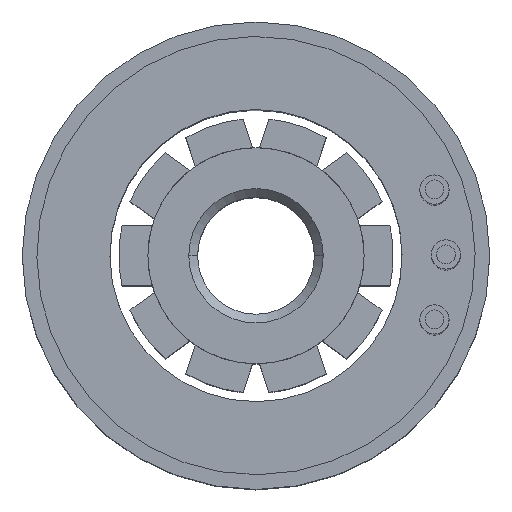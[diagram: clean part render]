
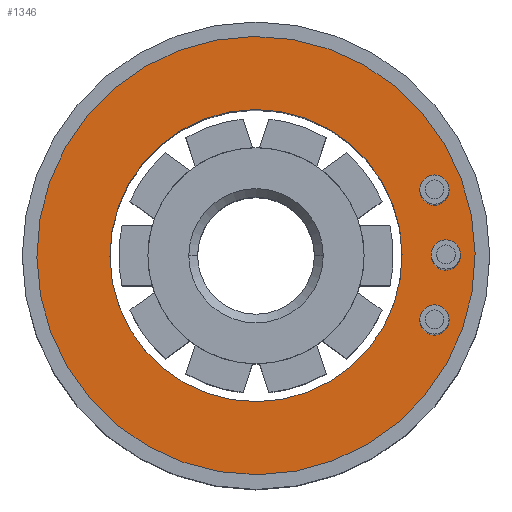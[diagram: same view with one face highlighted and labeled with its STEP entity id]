
A CAD part, top view. The second image highlights one B-rep face of the part: STEP entity #1346.
In plain terms, the highlighted planar face has unit normal (0, 0, 1).
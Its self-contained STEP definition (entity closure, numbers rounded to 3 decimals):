
#29 = DIRECTION ( 'NONE',  ( 0., 0., 1. ) ) ;
#127 = FACE_BOUND ( 'NONE', #727, .T. ) ;
#165 = CARTESIAN_POINT ( 'NONE',  ( 0., 0., 15.2 ) ) ;
#328 = DIRECTION ( 'NONE',  ( 1., 0., 0. ) ) ;
#429 = AXIS2_PLACEMENT_3D ( 'NONE', #4065, #3114, #328 ) ;
#455 = CIRCLE ( 'NONE', #4675, 5. ) ;
#546 = CIRCLE ( 'NONE', #3433, 7.5 ) ;
#727 = EDGE_LOOP ( 'NONE', ( #3202, #1579 ) ) ;
#795 = CARTESIAN_POINT ( 'NONE',  ( 0., 0., 15.2 ) ) ;
#1248 = DIRECTION ( 'NONE',  ( 1., 0., 0. ) ) ;
#1296 = EDGE_CURVE ( 'NONE', #5522, #4943, #4971, .T. ) ;
#1346 = ADVANCED_FACE ( 'NONE', ( #2593, #127 ), #2104, .T. ) ;
#1410 = ORIENTED_EDGE ( 'NONE', *, *, #1296, .T. ) ;
#1528 = CARTESIAN_POINT ( 'NONE',  ( -5., 0., 15.2 ) ) ;
#1579 = ORIENTED_EDGE ( 'NONE', *, *, #1741, .F. ) ;
#1741 = EDGE_CURVE ( 'NONE', #4233, #4808, #2918, .T. ) ;
#2104 = PLANE ( 'NONE',  #429 ) ;
#2173 = DIRECTION ( 'NONE',  ( 0., 0., 1. ) ) ;
#2264 = ORIENTED_EDGE ( 'NONE', *, *, #2480, .T. ) ;
#2464 = CARTESIAN_POINT ( 'NONE',  ( 7.5, 0., 15.2 ) ) ;
#2480 = EDGE_CURVE ( 'NONE', #4943, #5522, #546, .T. ) ;
#2563 = DIRECTION ( 'NONE',  ( 1., 0., 0. ) ) ;
#2593 = FACE_OUTER_BOUND ( 'NONE', #3713, .T. ) ;
#2820 = CARTESIAN_POINT ( 'NONE',  ( 5., 0., 15.2 ) ) ;
#2918 = CIRCLE ( 'NONE', #5263, 5. ) ;
#2982 = CARTESIAN_POINT ( 'NONE',  ( 0., 0., 15.2 ) ) ;
#3114 = DIRECTION ( 'NONE',  ( 0., 0., 1. ) ) ;
#3202 = ORIENTED_EDGE ( 'NONE', *, *, #3850, .F. ) ;
#3433 = AXIS2_PLACEMENT_3D ( 'NONE', #2982, #29, #5370 ) ;
#3465 = CARTESIAN_POINT ( 'NONE',  ( 0., 0., 15.2 ) ) ;
#3642 = AXIS2_PLACEMENT_3D ( 'NONE', #165, #2173, #2563 ) ;
#3713 = EDGE_LOOP ( 'NONE', ( #2264, #1410 ) ) ;
#3850 = EDGE_CURVE ( 'NONE', #4808, #4233, #455, .T. ) ;
#3912 = DIRECTION ( 'NONE',  ( 0., 0., 1. ) ) ;
#4065 = CARTESIAN_POINT ( 'NONE',  ( 0., 0., 15.2 ) ) ;
#4233 = VERTEX_POINT ( 'NONE', #2820 ) ;
#4675 = AXIS2_PLACEMENT_3D ( 'NONE', #3465, #3912, #4872 ) ;
#4726 = DIRECTION ( 'NONE',  ( 0., 0., 1. ) ) ;
#4808 = VERTEX_POINT ( 'NONE', #1528 ) ;
#4872 = DIRECTION ( 'NONE',  ( 1., 0., 0. ) ) ;
#4943 = VERTEX_POINT ( 'NONE', #5418 ) ;
#4971 = CIRCLE ( 'NONE', #3642, 7.5 ) ;
#5263 = AXIS2_PLACEMENT_3D ( 'NONE', #795, #4726, #1248 ) ;
#5370 = DIRECTION ( 'NONE',  ( 1., 0., 0. ) ) ;
#5418 = CARTESIAN_POINT ( 'NONE',  ( -7.5, 0., 15.2 ) ) ;
#5522 = VERTEX_POINT ( 'NONE', #2464 ) ;
